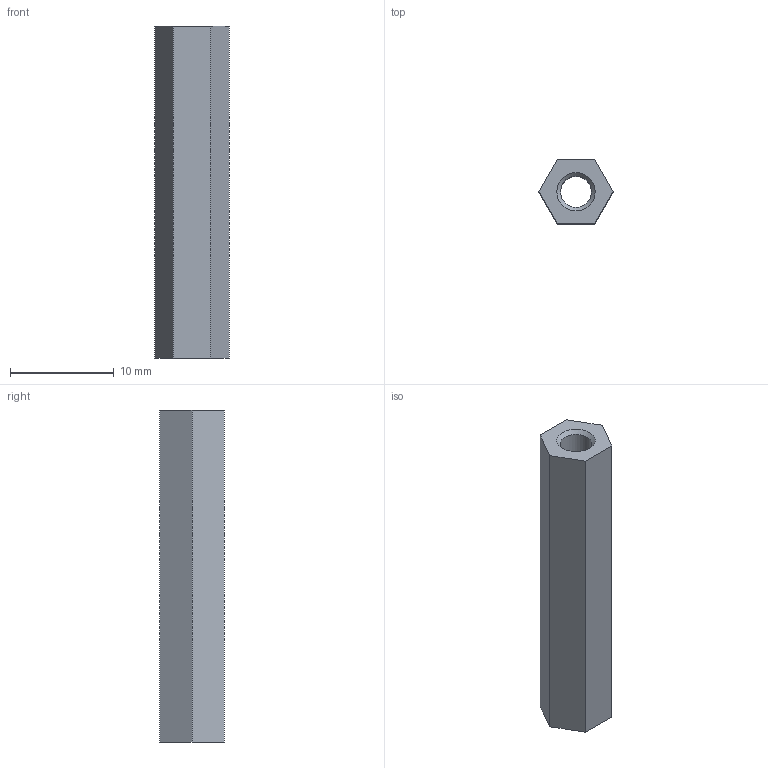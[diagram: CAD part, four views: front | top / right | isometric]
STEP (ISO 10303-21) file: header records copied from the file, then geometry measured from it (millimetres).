
FILE_DESCRIPTION(/* description */ (''),/* implementation_level */ '2;1');
FILE_NAME(/* name */ 'D:\FIRST\FTC KOP 2017\FTC 2017 KOP\Tetrix STEP\Tetrix_39107.ipt.step',/* time_stamp */ '2017-01-03T09:06:47-08:00',/* author */ ('Autodesk Inc.'),/* organization */ ('Autodesk Inc.'),/* preprocessor_version */ 'ST-DEVELOPER v16.5',/* originating_system */ 'Autodesk Inventor 2017',/* authorisation */ '');
FILE_SCHEMA (('AUTOMOTIVE_DESIGN { 1 0 10303 214 3 1 1 }'));
Length unit declared in the file: millimetre
Products named in the file (1): 39107
Bounding box: 7.16 x 6.2 x 32 mm (x, y, z)
Volume: 837.8 mm3; surface area: 1037.8 mm2
Topology: 1 solids, 1 shells, 11 faces, 26 edges, 17 vertices
Faces by surface type: plane 8, cone 2, cylinder 1
Full cylindrical faces by diameter (mm): 3 x1
Entity records: 344 total; most frequent: DIRECTION 50, CARTESIAN_POINT 50, ORIENTED_EDGE 44, EDGE_CURVE 22, LINE 18, VECTOR 18, EDGE_LOOP 16, VERTEX_POINT 16
